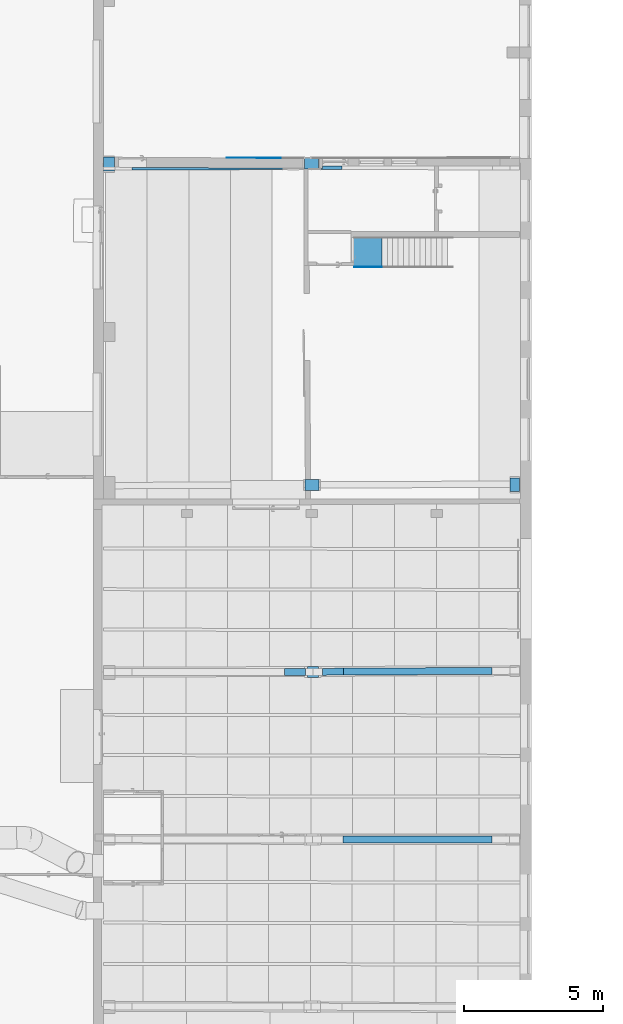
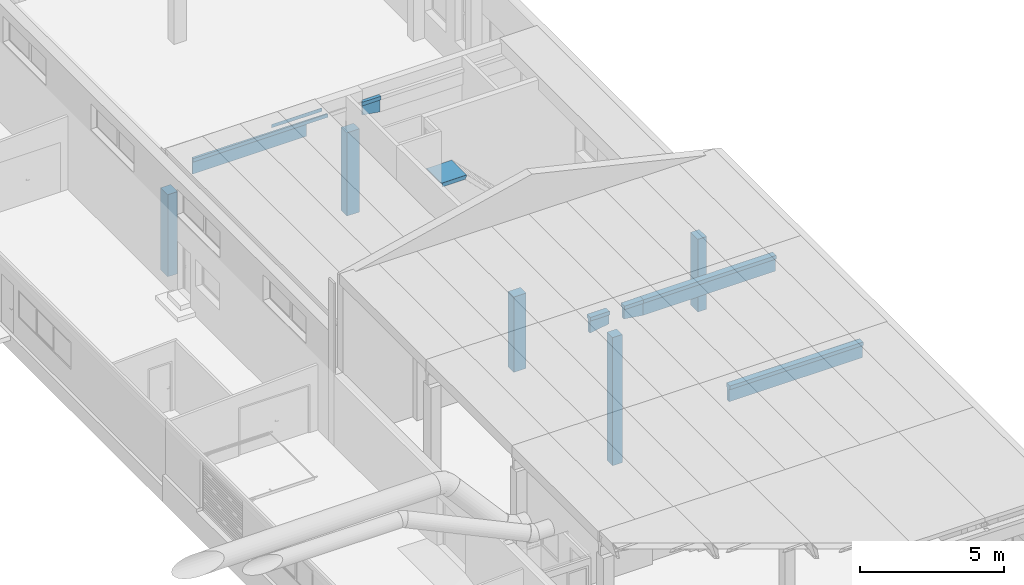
# One storey, part 204 of 301: 14 building element parts, 12 elements without a shape of their own.
"""IFC2X3 building model written with IfcOpenShell, lengths in millimetres."""

from ifc_helpers import new_model, entity, si_unit, converted_unit, derived_unit, money_unit, direction, frame, origin_with_axes, place, context, subcontext, project, spatial, faceted_brep, material, type_object, element, aggregate, save


model = new_model("IFC2X3")

# Units and contexts
model_context = context("Model", 3, precision=0.01, world=origin_with_axes(), true_north=direction((0.0, 1.0)))
body_context = subcontext(model_context, "Body", "Model", "MODEL_VIEW")
ifc_project = project(units=[si_unit("LENGTHUNIT", "METRE", prefix="MILLI"), si_unit("AREAUNIT", "SQUARE_METRE"), si_unit("VOLUMEUNIT", "CUBIC_METRE"), converted_unit("PLANEANGLEUNIT", "DEGREE", entity("IfcPlaneAngleMeasure", 0.0174532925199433), si_unit("PLANEANGLEUNIT", "RADIAN"), dimensions=[0, 0, 0, 0, 0, 0, 0]), money_unit("EUR"), converted_unit("TIMEUNIT", "Year", entity("IfcTimeMeasure", 31557600.0), si_unit("TIMEUNIT", "SECOND"), dimensions=[0, 0, 1, 0, 0, 0, 0]), si_unit("MASSUNIT", "GRAM", prefix="KILO"), si_unit("THERMODYNAMICTEMPERATUREUNIT", "DEGREE_CELSIUS"), si_unit("LUMINOUSINTENSITYUNIT", "LUMEN"), si_unit("ENERGYUNIT", "JOULE", prefix="MEGA"), derived_unit("THERMALCONDUCTANCEUNIT", [(si_unit("POWERUNIT", "WATT"), 1), (si_unit("LENGTHUNIT", "METRE"), -1), (si_unit("THERMODYNAMICTEMPERATUREUNIT", "KELVIN"), -1)]), derived_unit("SPECIFICHEATCAPACITYUNIT", [(si_unit("ENERGYUNIT", "JOULE"), 1), (si_unit("MASSUNIT", "GRAM", prefix="KILO"), -1), (si_unit("THERMODYNAMICTEMPERATUREUNIT", "KELVIN"), -1)]), derived_unit("MASSDENSITYUNIT", [(si_unit("MASSUNIT", "GRAM", prefix="KILO"), 1), (si_unit("VOLUMEUNIT", "CUBIC_METRE"), -1)])], contexts=[model_context])

# Site, building, storey
site_placement = place(None, frame((0.0, 0.0, 8650.0), z_axis=(0.0, 0.0, 1.0), x_axis=(1.0, 0.0, 0.0)))
site = spatial("IfcSite", under=ifc_project, at=site_placement, Name="43301:001:0844", CompositionType="ELEMENT")
building_placement = place(site_placement, origin_with_axes())
building = spatial("IfcBuilding", under=site, at=building_placement, Name="Kuressaare Ametikooli tuulikute mehaanikute õppekorpus", CompositionType="ELEMENT")
storey_placement = place(building_placement, origin_with_axes())
storey = spatial("IfcBuildingStorey", under=building, at=storey_placement, Name="1.korrus", CompositionType="ELEMENT", Elevation=0.0)

# Column, building element part
column_type_1 = type_object("IfcColumnType", Name="Various Structures - 3 Segments - 600 x 400 x 5950 (5433+102+415)", PredefinedType="NOTDEFINED")
column_1_placement = place(storey_placement, frame((95793.59130859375, 56096.24933209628, 130.0), z_axis=(0.0, 0.0, 1.0), x_axis=(1.0, 0.0, 0.0)))
column_1 = element("IfcColumn", 1, at=column_1_placement, inside=storey, type_object=column_type_1)
ifc_material_1 = material(Name="GENEERILINE - KONSTRUKTRIOON")
building_element_part_1_placement = place(column_1_placement, origin_with_axes())
building_element_part_1 = element("IfcBuildingElementPart", 2, at=building_element_part_1_placement, material=ifc_material_1, Name="GENEERILINE - KONSTRUKTRIOON", context=body_context, shape_type="Brep", body=[
    faceted_brep([(-200.0000000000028, -200.0000000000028, 5432.979557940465), (-200.0000000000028, -200.0000000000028, 0.0), (200.0000000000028, -200.0000000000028, 0.0), (200.0000000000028, -200.0000000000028, 5432.979557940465), (-200.0000000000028, 200.0000000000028, 5432.979557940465), (-200.0000000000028, 200.0000000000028, 0.0), (200.0000000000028, 200.0000000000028, 0.0), (200.0000000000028, 200.0000000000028, 5432.979557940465)], [[[0, 1, 2, 3]], [[4, 5, 1, 0]], [[2, 1, 5, 6]], [[3, 2, 6, 7]], [[4, 0, 3, 7]], [[7, 6, 5, 4]]]),
])
aggregate(column_1, [building_element_part_1])

# Beam, building element part
beam_type_1 = type_object("IfcBeamType", Name="Various Structures - 5 Segments - 250 x 700 x 7456 (338+766+5361+631+361)", PredefinedType="NOTDEFINED")
beam_1_placement = place(storey_placement, frame((95771.85418875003, 50085.18157357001, 6660.0), z_axis=(0.0, 0.0, 1.0), x_axis=(2.364312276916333e-05, -0.9999999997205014, 0.0)))
beam_1 = element("IfcBeam", 3, at=beam_1_placement, inside=storey, type_object=beam_type_1)
ifc_material_2 = material(Name="Raudbetoon")
building_element_part_2_placement = place(beam_1_placement, origin_with_axes())
building_element_part_2 = element("IfcBuildingElementPart", 4, at=building_element_part_2_placement, material=ifc_material_2, Name="Raudbetoon", context=body_context, shape_type="Brep", body=[
    faceted_brep([(-109.8642867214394, 6464.335883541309, 0.0), (-125.0055545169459, 6464.335883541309, 0.0), (-125.0055545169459, 1103.687342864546, 0.0), (-111.4876734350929, 1103.687342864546, 0.0), (-109.8642715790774, 6464.335883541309, -5.000209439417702), (109.2942573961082, 6464.335883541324, -5.000209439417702), (109.2942725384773, 6464.335883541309, 0.0), (125.0055545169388, 6464.335883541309, 0.0), (125.0052826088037, 6464.335883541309, -150.0000000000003), (65.00000000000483, 6464.335883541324, -164.4012678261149), (65.00000000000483, 6464.335883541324, -700.0000000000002), (-65.00000000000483, 6464.335883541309, -700.0000000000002), (-65.00000000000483, 6464.335883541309, -164.4012678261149), (-125.0052826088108, 6464.335883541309, -150.0000000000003), (-125.0052826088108, 1103.687342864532, -150.0000000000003), (125.0055545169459, 1103.687342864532, 0.0), (107.670885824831, 1103.687342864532, 0.0), (107.6708706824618, 1103.687342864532, -5.000209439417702), (-111.4876582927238, 1103.687342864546, -5.000209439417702), (-64.99999999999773, 1103.687342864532, -164.4012678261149), (-64.99999999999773, 1103.687342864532, -700.0000000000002), (64.99999999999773, 1103.687342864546, -700.0000000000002), (64.99999999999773, 1103.687342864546, -164.4012678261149), (125.0052826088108, 1103.687342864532, -150.0000000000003)], [[[0, 1, 2, 3]], [[1, 0, 4, 5, 6, 7, 8, 9, 10, 11, 12, 13]], [[1, 13, 14, 2]], [[15, 16, 17, 18, 3, 2, 14, 19, 20, 21, 22, 23]], [[0, 3, 18, 4]], [[4, 18, 17, 5]], [[6, 5, 17, 16]], [[16, 15, 7, 6]], [[8, 7, 15, 23]], [[9, 8, 23, 22]], [[10, 9, 22, 21]], [[11, 10, 21, 20]], [[12, 11, 20, 19]], [[13, 12, 19, 14]]]),
])
aggregate(beam_1, [building_element_part_2])

# Beam, building element parts
beam_type_2 = type_object("IfcBeamType", Name="Various Structures - 5 Segments - 250 x 700 x 7435 (338+766+5341+640+350)", PredefinedType="NOTDEFINED")
beam_2_placement = place(storey_placement, frame((95793.5361313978, 56107.49431488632, 6659.999999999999), z_axis=(0.0, 0.0, 1.0), x_axis=(0.005495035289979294, -0.9999849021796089, 0.0)))
beam_2 = element("IfcBeam", 5, at=beam_2_placement, inside=storey, type_object=beam_type_2)
building_element_part_3_placement = place(beam_2_placement, origin_with_axes())
building_element_part_3 = element("IfcBuildingElementPart", 6, at=building_element_part_3_placement, material=ifc_material_2, Name="Raudbetoon", context=body_context, shape_type="Brep", body=[
    faceted_brep([(-121.5737248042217, 1103.687342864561, 0.0), (-121.573709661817, 1103.687342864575, -5.000214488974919), (97.58520259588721, 1103.687342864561, -5.000214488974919), (97.58521773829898, 1103.687342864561, 0.0), (125.0047820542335, 1103.687342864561, 0.0), (125.004616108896, 1103.687342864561, -75.00000000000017), (125.0044501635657, 1103.687342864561, -150.0000000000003), (65.00000000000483, 1103.687342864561, -164.4010680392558), (65.00000000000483, 1103.687342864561, -699.9999999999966), (-64.99999999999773, 1103.687342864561, -699.9999999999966), (-64.99999999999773, 1103.687342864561, -164.4010680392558), (-125.0044501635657, 1103.687342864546, -150.0000000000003), (-125.004616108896, 1103.687342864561, -75.00000000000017), (-125.0047820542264, 1103.687342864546, 0.0), (-123.0248351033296, 337.7568168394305, -5.000214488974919), (-123.0248502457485, 337.7568168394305, 0.0), (96.1340771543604, 337.7568168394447, -5.000214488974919), (96.13409229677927, 337.7568168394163, 0.0), (125.0052826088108, 337.7568168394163, 0.0), (125.00515747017, 529.2394483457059, 0.0), (125.0049071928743, 912.2047113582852, 0.0), (125.0045854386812, 912.2047113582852, -150.0000000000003), (125.0048559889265, 529.2394483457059, -150.0000000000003), (125.0049912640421, 337.7568168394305, -150.0000000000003), (64.99999999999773, 337.7568168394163, -164.4011979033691), (64.99999999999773, 337.7568168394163, -579.8231697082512), (-64.99999999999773, 337.7568168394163, -579.8231697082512), (-64.99999999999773, 337.7568168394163, -164.4011979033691), (-125.0049912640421, 337.7568168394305, -150.0000000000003), (-125.0048559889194, 529.2394483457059, -150.0000000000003), (-125.0045854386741, 912.2047113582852, -150.0000000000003), (-125.0049071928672, 912.204711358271, 0.0), (-125.0052826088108, 337.7568168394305, 0.0), (-125.0051574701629, 529.2394483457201, 0.0), (-125.0051369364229, 337.7568168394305, -75.00000000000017), (125.00513693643, 337.7568168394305, -75.00000000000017), (125.0048765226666, 720.7220798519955, -75.00000000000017), (-125.0048765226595, 720.7220798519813, -75.00000000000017)], [[[0, 1, 2, 3, 4, 5, 6, 7, 8, 9, 10, 11, 12, 13]], [[14, 1, 0, 15]], [[16, 2, 1, 14]], [[16, 17, 3, 2]], [[4, 3, 17, 18, 19, 20]], [[5, 4, 20]], [[6, 5, 21]], [[7, 6, 21, 22, 23, 24]], [[8, 7, 24, 25]], [[26, 9, 8, 25]], [[10, 9, 26, 27]], [[11, 10, 27, 28, 29, 30]], [[12, 11, 30]], [[13, 12, 31]], [[32, 15, 0, 13, 31, 33]], [[16, 14, 15, 32, 34, 28, 27, 26, 25, 24, 23, 35, 18, 17]], [[35, 19, 18]], [[36, 20, 19]], [[5, 20, 36, 21]], [[21, 36, 22]], [[22, 35, 23]], [[34, 29, 28]], [[37, 30, 29]], [[12, 30, 37, 31]], [[31, 37, 33]], [[33, 34, 32]], [[36, 19, 35, 22]], [[37, 29, 34, 33]]]),
])
building_element_part_4_placement = place(beam_2_placement, origin_with_axes())
building_element_part_4 = element("IfcBuildingElementPart", 7, at=building_element_part_4_placement, material=ifc_material_2, Name="Raudbetoon", context=body_context, shape_type="Brep", body=[
    faceted_brep([(-111.4538353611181, 6445.149922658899, 0.0), (-111.4538202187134, 6445.149922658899, -5.000214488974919), (107.7050920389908, 6445.149922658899, -5.000214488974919), (107.7051071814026, 6445.149922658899, 0.0), (125.0055545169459, 6445.149922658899, 0.0), (125.0052826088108, 6445.149922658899, -150.0000000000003), (64.99999999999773, 6445.149922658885, -164.4012678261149), (64.99999999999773, 6445.149922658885, -700.0000000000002), (-65.00000000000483, 6445.149922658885, -700.0000000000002), (-65.00000000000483, 6445.149922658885, -164.4012678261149), (-125.0052826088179, 6445.149922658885, -150.0000000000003), (-125.0055545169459, 6445.149922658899, 0.0), (-121.573709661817, 1103.687342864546, -5.000214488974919), (-121.5737248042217, 1103.687342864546, 0.0), (97.58520259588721, 1103.687342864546, -5.000214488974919), (97.58521773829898, 1103.687342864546, 0.0), (125.0055545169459, 1103.687342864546, 0.0), (125.0052826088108, 1103.687342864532, -150.0000000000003), (64.99999999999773, 1103.687342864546, -164.4012678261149), (64.99999999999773, 1103.687342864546, -700.0000000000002), (-64.99999999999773, 1103.687342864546, -700.0000000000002), (-64.99999999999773, 1103.687342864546, -164.4012678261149), (-125.0052826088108, 1103.687342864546, -150.0000000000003), (-125.0055545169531, 1103.687342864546, 0.0)], [[[0, 1, 2, 3, 4, 5, 6, 7, 8, 9, 10, 11]], [[12, 1, 0, 13]], [[14, 2, 1, 12]], [[14, 15, 3, 2]], [[4, 3, 15, 16]], [[16, 17, 5, 4]], [[17, 18, 6, 5]], [[18, 19, 7, 6]], [[19, 20, 8, 7]], [[20, 21, 9, 8]], [[21, 22, 10, 9]], [[22, 23, 11, 10]], [[23, 13, 0, 11]], [[14, 12, 13, 23, 22, 21, 20, 19, 18, 17, 16, 15]]]),
])
aggregate(beam_2, [building_element_part_3, building_element_part_4])

# Beam, building element part
beam_type_3 = type_object("IfcBeamType", Name="Various Structures - 5 Segments - 250 x 700 x 7535 (262+767+5466+621+419)", PredefinedType="NOTDEFINED")
beam_3_placement = place(storey_placement, frame((95793.5361313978, 56107.49431488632, 6659.999999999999), z_axis=(0.0, 0.0, 1.0), x_axis=(-0.001731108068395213, 0.9999985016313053, 0.0)))
beam_3 = element("IfcBeam", 8, at=beam_3_placement, inside=storey, type_object=beam_type_3)
building_element_part_5_placement = place(beam_3_placement, origin_with_axes())
building_element_part_5 = element("IfcBuildingElementPart", 9, at=building_element_part_5_placement, material=ifc_material_2, Name="Raudbetoon", context=body_context, shape_type="Brep", body=[
    faceted_brep([(-64.99999999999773, 1028.909484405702, -699.9999999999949), (-64.99999999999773, 300.0577944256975, -585.8200134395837), (-64.99999999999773, 300.0577944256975, -579.9999999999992), (-64.99999999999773, 262.9065671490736, -579.9999999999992), (-64.99999999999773, 261.7777961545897, -579.8231697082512), (-64.99999999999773, 261.7777961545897, -164.4011979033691), (-64.99999999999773, 1028.909484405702, -164.4010680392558), (65.00000000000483, 1028.909484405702, -699.9999999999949), (65.00000000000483, 299.832750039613, -585.7847585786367), (65.00000000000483, 299.832750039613, -579.9999999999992), (64.99999999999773, 262.9065671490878, -579.9999999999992), (64.99999999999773, 261.7777961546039, -579.8231697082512), (125.0052826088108, 261.7777961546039, 0.0), (123.1753967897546, 261.7777961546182, 0.0), (123.17538164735, 261.7777961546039, -5.000214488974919), (-95.98352020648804, 261.7777961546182, -5.000214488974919), (-95.9835353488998, 261.7777961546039, 0.0), (-125.0052826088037, 261.7777961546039, 0.0), (-125.0051369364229, 261.7777961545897, -75.00000000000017), (-125.004991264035, 261.7777961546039, -150.0000000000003), (64.99999999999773, 261.7777961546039, -164.4011979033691), (125.004991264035, 261.7777961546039, -150.0000000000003), (125.00513693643, 261.7777961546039, -75.00000000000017), (-125.0045854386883, 837.1265623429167, -150.0000000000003), (-125.0044501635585, 1028.909484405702, -150.0000000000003), (-125.0048559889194, 453.5607182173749, -150.0000000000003), (-97.41758600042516, 1028.909484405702, 0.0), (-97.41757085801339, 1028.909484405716, -5.000214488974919), (121.7413309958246, 1028.909484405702, -5.000214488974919), (121.7413461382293, 1028.909484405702, 0.0), (125.0047820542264, 1028.909484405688, 0.0), (125.004616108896, 1028.909484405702, -75.00000000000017), (125.0044501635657, 1028.909484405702, -150.0000000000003), (65.00000000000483, 1028.909484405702, -164.4010680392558), (-125.0046161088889, 1028.909484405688, -75.00000000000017), (-125.0047820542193, 1028.909484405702, 0.0), (125.0049071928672, 837.1265623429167, 0.0), (125.0051574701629, 453.5607182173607, 0.0), (-125.0051574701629, 453.5607182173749, 0.0), (-125.0049071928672, 837.1265623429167, 0.0), (125.0045854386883, 837.1265623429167, -150.0000000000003), (125.0048559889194, 453.5607182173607, -150.0000000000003), (-125.0048765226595, 645.3436402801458, -75.00000000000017), (125.0048765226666, 645.3436402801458, -75.00000000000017)], [[[0, 1, 2, 3, 4, 5, 6]], [[7, 8, 1, 0]], [[1, 8, 9, 2]], [[9, 10, 3, 2]], [[4, 3, 10, 11]], [[12, 13, 14, 15, 16, 17, 18, 19, 5, 4, 11, 20, 21, 22]], [[23, 24, 6, 5, 19, 25]], [[26, 27, 28, 29, 30, 31, 32, 33, 7, 0, 6, 24, 34, 35]], [[10, 9, 8, 7, 33, 20, 11]], [[36, 30, 29, 13, 12, 37]], [[29, 28, 14, 13]], [[28, 27, 15, 14]], [[15, 27, 26, 16]], [[38, 17, 16, 26, 35, 39]], [[17, 38, 18]], [[19, 18, 25]], [[20, 33, 32, 40, 41, 21]], [[21, 41, 22]], [[12, 22, 37]], [[23, 34, 24]], [[25, 42, 23]], [[36, 31, 30]], [[40, 32, 31]], [[39, 35, 34]], [[37, 43, 36]], [[38, 39, 42]], [[38, 42, 25, 18]], [[41, 40, 43]], [[41, 43, 37, 22]], [[39, 34, 23, 42]], [[40, 31, 36, 43]]]),
])
aggregate(beam_3, [building_element_part_5])

# Column, building element part
column_type_2 = type_object("IfcColumnType", Name="Various Structures - 3 Segments - 600 x 400 x 4050 (3533+102+415)", PredefinedType="NOTDEFINED")
column_2_placement = place(storey_placement, frame((95739.70185815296, 74382.82610490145, -330.0), z_axis=(0.0, 0.0, 1.0), x_axis=(1.0, 0.0, 0.0)))
column_2 = element("IfcColumn", 10, at=column_2_placement, inside=storey, type_object=column_type_2)
building_element_part_6_placement = place(column_2_placement, origin_with_axes())
building_element_part_6 = element("IfcBuildingElementPart", 11, at=building_element_part_6_placement, material=ifc_material_1, Name="GENEERILINE - KONSTRUKTRIOON", context=body_context, shape_type="Brep", body=[
    faceted_brep([(-250.0, -200.0000000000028, 3532.979557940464), (-250.0, -200.0000000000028, 0.0), (250.0, -200.0000000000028, 0.0), (250.0, -200.0000000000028, 3532.979557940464), (-250.0, 200.0000000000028, 3532.979557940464), (-250.0, 200.0000000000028, 0.0), (250.0, 200.0000000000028, 0.0), (250.0, 200.0000000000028, 3532.979557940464)], [[[0, 1, 2, 3]], [[4, 5, 1, 0]], [[2, 1, 5, 6]], [[3, 2, 6, 7]], [[4, 0, 3, 7]], [[7, 6, 5, 4]]]),
])
aggregate(column_2, [building_element_part_6])

# Beam, building element part
beam_type_4 = type_object("IfcBeamType", Name="Various Structures - 5 Segments - 250 x 700 x 3042 (262+767+2013+0+0)", PredefinedType="NOTDEFINED")
beam_4_placement = place(storey_placement, frame((95739.59932354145, 74462.89050016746, 4300.0), z_axis=(0.0, 0.0, 1.0), x_axis=(-0.001094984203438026, 0.9999994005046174, 0.0)))
beam_4 = element("IfcBeam", 12, at=beam_4_placement, inside=storey, type_object=beam_type_4)
building_element_part_7_placement = place(beam_4_placement, origin_with_axes())
building_element_part_7 = element("IfcBuildingElementPart", 13, at=building_element_part_7_placement, material=ifc_material_2, Name="Raudbetoon", context=body_context, shape_type="Brep", body=[
    faceted_brep([(125.0055545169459, 1028.909484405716, 0.0), (125.0055545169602, 3041.958068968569, 0.0), (111.4597509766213, 1028.90948440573, 0.0), (125.0052826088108, 1028.909484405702, -150.0000000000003), (125.0052826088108, 3041.917660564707, -150.0000000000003), (111.4597509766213, 1028.909484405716, -153.250927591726)], [[[0, 1, 2]], [[3, 4, 1, 0]], [[4, 5, 2, 1]], [[0, 2, 5, 3]], [[3, 5, 4]]]),
])
aggregate(beam_4, [building_element_part_7])

beam_type_5 = type_object("IfcBeamType", Name="Various Structures - 5 Segments - 250 x 700 x 7349 (338+766+5264+640+341)", PredefinedType="NOTDEFINED")
beam_5_placement = place(storey_placement, frame((95739.02868207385, 74286.49697267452, 4300.0), z_axis=(0.0, 0.0, 1.0), x_axis=(-0.001219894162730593, -0.9999992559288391, 0.0)))
beam_5 = element("IfcBeam", 14, at=beam_5_placement, inside=storey, type_object=beam_type_5)
building_element_part_8_placement = place(beam_5_placement, origin_with_axes())
building_element_part_8 = element("IfcBuildingElementPart", 15, at=building_element_part_8_placement, material=ifc_material_2, Name="Raudbetoon", context=body_context, shape_type="Brep", body=[
    faceted_brep([(64.99999999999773, 1103.687342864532, -699.99999999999), (-10.04203628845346, 1103.687342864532, -699.99999999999), (-10.04203628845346, 1103.687342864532, 0.0), (125.0047820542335, 1103.687342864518, 0.0), (125.004616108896, 1103.687342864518, -75.00000000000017), (125.0044501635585, 1103.687342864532, -150.0000000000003), (64.99999999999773, 1103.687342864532, -164.4010680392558), (64.99999999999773, 396.0957843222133, -588.9767312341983), (-9.178993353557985, 396.2142529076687, -588.9953193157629), (-9.178993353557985, 396.2142529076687, 0.0), (80.8212489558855, 396.0705167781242, 0.0), (80.56384948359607, 337.7568168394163, 0.0), (125.0052826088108, 337.7568168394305, 0.0), (125.00515747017, 529.2394483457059, 0.0), (125.0049071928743, 912.2047113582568, 0.0), (125.0045854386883, 912.2047113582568, -150.0000000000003), (80.56384948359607, 337.7568168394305, -160.6658740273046), (80.8212489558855, 396.0705167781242, -160.6040882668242), (64.99999999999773, 396.0957843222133, -164.4011880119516), (125.0048559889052, 529.2394483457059, -150.0000000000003), (125.0049912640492, 337.7568168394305, -150.0000000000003), (125.0051369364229, 337.7568168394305, -75.00000000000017), (125.0048765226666, 720.7220798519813, -75.00000000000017)], [[[0, 1, 2, 3, 4, 5, 6]], [[7, 8, 1, 0]], [[8, 9, 2, 1]], [[3, 2, 9, 10, 11, 12, 13, 14]], [[4, 3, 14]], [[5, 4, 15]], [[16, 17, 18, 6, 5, 15, 19, 20]], [[6, 18, 7, 0]], [[10, 9, 8, 7, 18, 17]], [[16, 11, 10, 17]], [[12, 11, 16, 20, 21]], [[21, 13, 12]], [[22, 14, 13]], [[4, 14, 22, 15]], [[15, 22, 19]], [[19, 21, 20]], [[22, 13, 21, 19]]]),
])
aggregate(beam_5, [building_element_part_8])

beam_type_6 = type_object("IfcBeamType", Name="Various Structures - 5 Segments - 250 x 700 x 7330 (121+758+5410+621+420)", PredefinedType="NOTDEFINED")
beam_6_placement = place(storey_placement, frame((95739.02868207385, 74286.49697267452, 4300.0), z_axis=(0.0, 0.0, 1.0), x_axis=(-0.001973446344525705, 0.9999980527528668, 0.0)))
beam_6 = element("IfcBeam", 16, at=beam_6_placement, inside=storey, type_object=beam_type_6)
building_element_part_9_placement = place(beam_6_placement, origin_with_axes())
building_element_part_9 = element("IfcBuildingElementPart", 17, at=building_element_part_9_placement, material=ifc_material_2, Name="Raudbetoon", context=body_context, shape_type="Brep", body=[
    faceted_brep([(-125.005282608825, 1028.909484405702, -150.0000000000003), (-71.24705510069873, 1028.909484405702, -162.90197460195), (-71.24705510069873, 1028.909484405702, 0.0), (-125.0055545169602, 1028.909484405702, 0.0), (-64.99999999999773, 6439.122656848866, -164.4012678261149), (-65.00000000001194, 1850.079167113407, -164.4012678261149), (-125.005282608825, 6439.122656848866, -150.0000000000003), (-30.08881398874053, 6439.122656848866, -700.0000000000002), (-30.08881398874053, 6439.122656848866, 0.0), (-65.00000000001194, 1850.079167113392, -700.0000000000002), (-125.0055545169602, 6439.122656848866, 0.0), (-64.99999999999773, 6439.122656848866, -700.0000000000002)], [[[0, 1, 2, 3]], [[4, 5, 1, 0, 6]], [[7, 8, 2, 1, 5, 9]], [[3, 2, 8, 10]], [[0, 3, 10, 6]], [[11, 9, 5, 4]], [[10, 8, 7, 11, 4, 6]], [[11, 7, 9]]]),
])
aggregate(beam_6, [building_element_part_9])

# Column, building element part
column_type_3 = type_object("IfcColumnType", Name="Various Structures - 3 Segments - 600 x 400 x 3710 (3193+102+415)", PredefinedType="NOTDEFINED")
column_3_placement = place(storey_placement, frame((95761.69583762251, 62819.29866482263, 44.99999999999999), z_axis=(0.0, 0.0, 1.0), x_axis=(1.0, 0.0, 0.0)))
column_3 = element("IfcColumn", 18, at=column_3_placement, inside=storey, type_object=column_type_3)
building_element_part_10_placement = place(column_3_placement, origin_with_axes())
building_element_part_10 = element("IfcBuildingElementPart", 19, at=building_element_part_10_placement, material=ifc_material_1, Name="GENEERILINE - KONSTRUKTRIOON", context=body_context, shape_type="Brep", body=[
    faceted_brep([(-250.0, -200.0000000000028, 3192.998079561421), (-250.0, -200.0000000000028, 0.0), (250.0, -200.0000000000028, 0.0), (250.0, -200.0000000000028, 3192.998079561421), (-250.0, 200.0000000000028, 3192.998079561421), (-250.0, 200.0000000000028, 0.0), (250.0, 200.0000000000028, 0.0), (250.0, 200.0000000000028, 3192.998079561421)], [[[0, 1, 2, 3]], [[4, 5, 1, 0]], [[2, 1, 5, 6]], [[3, 2, 6, 7]], [[4, 0, 3, 7]], [[7, 6, 5, 4]]]),
])
aggregate(column_3, [building_element_part_10])

column_type_4 = type_object("IfcColumnType", Name="Various Structures - 3 Segments - 600 x 350 x 3660 (3088+106+466)", PredefinedType="NOTDEFINED")
column_4_placement = place(storey_placement, frame((103052.5122070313, 62833.91011119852, 44.99999999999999), z_axis=(0.0, 0.0, 1.0), x_axis=(0.0, 1.0, 0.0)))
column_4 = element("IfcColumn", 20, at=column_4_placement, inside=storey, type_object=column_type_4)
building_element_part_11_placement = place(column_4_placement, origin_with_axes())
building_element_part_11 = element("IfcBuildingElementPart", 21, at=building_element_part_11_placement, material=ifc_material_1, Name="GENEERILINE - KONSTRUKTRIOON", context=body_context, shape_type="Brep", body=[
    faceted_brep([(-250.0, -174.9999999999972, 3087.700223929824), (-250.0, -174.9999999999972, 0.0), (250.0, -174.9999999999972, 0.0), (250.0, -174.9999999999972, 3087.700223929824), (-250.0, 174.9999999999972, 3087.700223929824), (-250.0, 174.9999999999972, 0.0), (250.0, 174.9999999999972, 0.0), (250.0, 174.9999999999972, 3087.700223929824)], [[[0, 1, 2, 3]], [[4, 5, 1, 0]], [[2, 1, 5, 6]], [[3, 2, 6, 7]], [[4, 0, 3, 7]], [[7, 6, 5, 4]]]),
])
aggregate(column_4, [building_element_part_11])

column_type_5 = type_object("IfcColumnType", Name="Various Structures - 3 Segments - 600 x 400 x 4000 (3483+102+415)", PredefinedType="NOTDEFINED")
column_5_placement = place(storey_placement, frame((88458.86060923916, 74359.57229505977, -330.0), z_axis=(0.0, 0.0, 1.0), x_axis=(0.0, 1.0, 0.0)))
column_5 = element("IfcColumn", 22, at=column_5_placement, inside=storey, type_object=column_type_5)
building_element_part_12_placement = place(column_5_placement, origin_with_axes())
building_element_part_12 = element("IfcBuildingElementPart", 23, at=building_element_part_12_placement, material=ifc_material_1, Name="GENEERILINE - KONSTRUKTRIOON", context=body_context, shape_type="Brep", body=[
    faceted_brep([(-250.0, -200.0000000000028, 3482.979557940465), (-250.0, -200.0000000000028, 0.0), (250.0, -200.0000000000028, 0.0), (250.0, -200.0000000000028, 3482.979557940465), (-250.0, 200.0000000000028, 3482.979557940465), (-250.0, 200.0000000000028, 0.0), (250.0, 200.0000000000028, 0.0), (250.0, 200.0000000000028, 3482.979557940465)], [[[0, 1, 2, 3]], [[4, 5, 1, 0]], [[2, 1, 5, 6]], [[3, 2, 6, 7]], [[4, 0, 3, 7]], [[7, 6, 5, 4]]]),
])
aggregate(column_5, [building_element_part_12])

# Stair, building element parts
stair_placement = place(storey_placement, frame((101247.1208628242, 71704.28857160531, 44.94862960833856), z_axis=(0.0, 0.0, 1.0), x_axis=(0.0, -1.0, 0.0)))
stair = element("IfcStair", 24, at=stair_placement, inside=storey, ShapeType="NOTDEFINED")
building_element_part_13_placement = place(stair_placement, origin_with_axes())
building_element_part_13 = element("IfcBuildingElementPart", 25, at=building_element_part_13_placement, material=ifc_material_1, Name="GENEERILINE - KONSTRUKTRIOON", context=body_context, shape_type="Brep", body=[
    faceted_brep([(1040.040942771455, -2976.376173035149, 2540.0), (1040.042088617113, -3042.377262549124, 2380.0), (1040.044022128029, -3153.748131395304, 2380.0), (1040.044022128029, -3153.748131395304, 2540.0), (1050.042088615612, -3042.37708893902, 2380.0), (1050.04094276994, -2976.375999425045, 2540.0), (1050.044022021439, -3153.741905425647, 2380.0), (1051.042692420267, -3967.101769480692, 2380.0), (1041.042699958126, -3967.114047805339, 2380.0), (1041.042699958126, -3967.114047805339, 2540.0), (1051.042692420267, -3967.101769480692, 2540.0), (1050.044022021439, -3153.741905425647, 2540.0)], [[[0, 1, 2, 3]], [[4, 1, 0, 5]], [[1, 4, 6, 7, 8, 2]], [[2, 8, 9, 3]], [[5, 0, 3, 9, 10, 11]], [[4, 5, 11, 6]], [[11, 10, 7, 6]], [[8, 7, 10, 9]]]),
])
building_element_part_14_placement = place(stair_placement, origin_with_axes())
building_element_part_14 = element("IfcBuildingElementPart", 26, at=building_element_part_14_placement, material=ifc_material_1, Name="GENEERILINE - KONSTRUKTRIOON", context=body_context, shape_type="Brep", body=[
    faceted_brep([(1041.099369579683, -4013.265594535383, 2535.0), (1.100145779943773, -4014.542537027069, 2535.0), (0.04403321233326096, -3154.395624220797, 2535.0), (0.04105199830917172, -2982.67670891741, 2535.0), (1040.04105730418, -2982.658653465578, 2535.0), (1040.044012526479, -3153.748125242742, 2535.0), (1.098731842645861, -4013.390963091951, 2540.0), (1041.097955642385, -4012.114020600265, 2540.0), (0.04403321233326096, -3154.395624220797, 2540.0), (0.04103200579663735, -2981.525134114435, 2540.0), (1040.041037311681, -2981.507078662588, 2540.0), (1040.044012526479, -3153.748125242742, 2540.0)], [[[0, 1, 2, 3, 4, 5]], [[6, 1, 0, 7]], [[1, 6, 8, 2]], [[3, 2, 8, 9]], [[3, 9, 10, 4]], [[10, 11, 5, 4]], [[7, 0, 5, 11]], [[6, 7, 11, 10, 9, 8]]]),
    faceted_brep([(1041.097955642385, -4012.114020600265, 2540.0), (1.098731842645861, -4013.390963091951, 2540.0), (1.091662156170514, -4007.633093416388, 2565.0), (1041.09088595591, -4006.356150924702, 2565.0), (1041.099369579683, -4013.265594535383, 2535.0), (1.100145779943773, -4014.542537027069, 2535.0), (1.106445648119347, -4019.673432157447, 2535.0), (1.097962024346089, -4012.763988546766, 2565.0), (1041.097185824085, -4011.487046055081, 2565.0), (1041.105669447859, -4018.396489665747, 2535.0)], [[[0, 1, 2, 3]], [[4, 5, 1, 0]], [[1, 5, 6, 7, 2]], [[3, 2, 7, 8]], [[0, 3, 8, 9, 4]], [[9, 6, 5, 4]], [[8, 7, 6, 9]]]),
    faceted_brep([(0.04105199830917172, -2982.67670891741, 2535.0), (1040.04105730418, -2982.658653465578, 2535.0), (1040.041037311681, -2981.507078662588, 2540.0), (0.04103200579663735, -2981.525134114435, 2540.0), (0.04115196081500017, -2988.4345829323, 2510.0), (1040.0411572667, -2988.416527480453, 2510.0), (1040.041068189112, -2983.285628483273, 2510.0), (1040.040948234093, -2976.376179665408, 2540.0), (0.04094292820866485, -2976.394235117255, 2540.0), (0.04106288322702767, -2983.303683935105, 2510.0)], [[[0, 1, 2, 3]], [[4, 5, 1, 0]], [[1, 5, 6, 7, 2]], [[3, 2, 7, 8]], [[0, 3, 8, 9, 4]], [[9, 6, 5, 4]], [[8, 7, 6, 9]]]),
])
aggregate(stair, [building_element_part_13, building_element_part_14])

save(model, "model.ifc")
